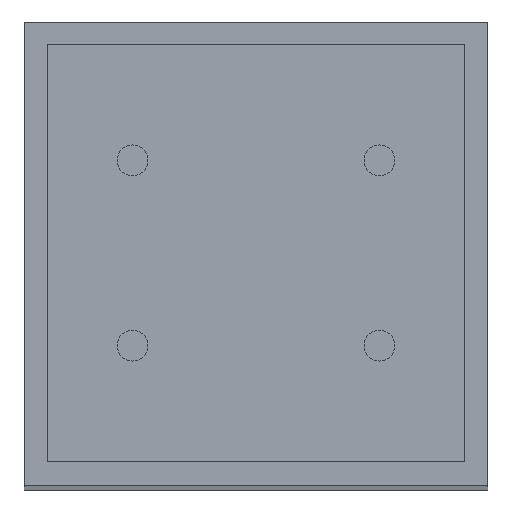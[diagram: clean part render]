
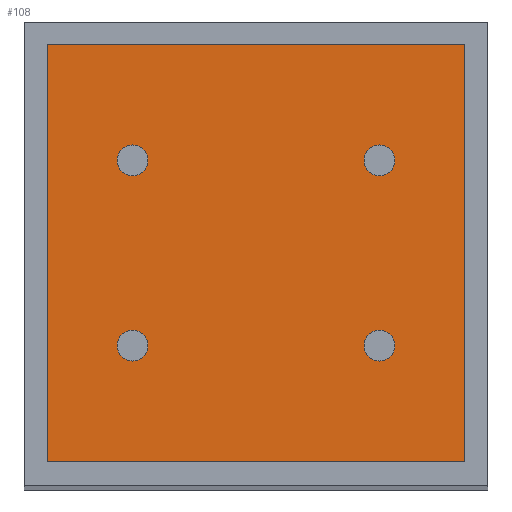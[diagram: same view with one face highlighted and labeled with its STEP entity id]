
A CAD part, top view. The second image highlights one B-rep face of the part: STEP entity #108.
In plain terms, the highlighted planar face has unit normal (0, 0, 1).
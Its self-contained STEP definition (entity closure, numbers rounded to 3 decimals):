
#108 = ADVANCED_FACE( '', ( #183, #184, #185, #186, #187 ), #188, .T. );
#183 = FACE_BOUND( '', #273, .T. );
#184 = FACE_BOUND( '', #274, .T. );
#185 = FACE_BOUND( '', #275, .T. );
#186 = FACE_BOUND( '', #276, .T. );
#187 = FACE_OUTER_BOUND( '', #277, .T. );
#188 = PLANE( '', #278 );
#273 = EDGE_LOOP( '', ( #515, #516 ) );
#274 = EDGE_LOOP( '', ( #517, #518 ) );
#275 = EDGE_LOOP( '', ( #519, #520 ) );
#276 = EDGE_LOOP( '', ( #521, #522 ) );
#277 = EDGE_LOOP( '', ( #523, #524, #525, #526 ) );
#278 = AXIS2_PLACEMENT_3D( '', #527, #528, #529 );
#515 = ORIENTED_EDGE( '', *, *, #615, .T. );
#516 = ORIENTED_EDGE( '', *, *, #616, .T. );
#517 = ORIENTED_EDGE( '', *, *, #611, .T. );
#518 = ORIENTED_EDGE( '', *, *, #618, .T. );
#519 = ORIENTED_EDGE( '', *, *, #607, .T. );
#520 = ORIENTED_EDGE( '', *, *, #620, .T. );
#521 = ORIENTED_EDGE( '', *, *, #603, .T. );
#522 = ORIENTED_EDGE( '', *, *, #622, .T. );
#523 = ORIENTED_EDGE( '', *, *, #647, .T. );
#524 = ORIENTED_EDGE( '', *, *, #641, .T. );
#525 = ORIENTED_EDGE( '', *, *, #644, .T. );
#526 = ORIENTED_EDGE( '', *, *, #646, .T. );
#527 = CARTESIAN_POINT( '', ( 0., 0., 610. ) );
#528 = DIRECTION( '', ( 0., 0., 1. ) );
#529 = DIRECTION( '', ( 1., 0., 0. ) );
#603 = EDGE_CURVE( '', #701, #705, #707, .T. );
#607 = EDGE_CURVE( '', #709, #713, #715, .T. );
#611 = EDGE_CURVE( '', #717, #721, #723, .T. );
#615 = EDGE_CURVE( '', #725, #729, #731, .T. );
#616 = EDGE_CURVE( '', #729, #725, #732, .T. );
#618 = EDGE_CURVE( '', #721, #717, #734, .T. );
#620 = EDGE_CURVE( '', #713, #709, #736, .T. );
#622 = EDGE_CURVE( '', #705, #701, #738, .T. );
#641 = EDGE_CURVE( '', #766, #764, #767, .T. );
#644 = EDGE_CURVE( '', #764, #769, #771, .T. );
#646 = EDGE_CURVE( '', #769, #772, #774, .T. );
#647 = EDGE_CURVE( '', #772, #766, #775, .T. );
#701 = VERTEX_POINT( '', #849 );
#705 = VERTEX_POINT( '', #854 );
#707 = CIRCLE( '', #857, 3. );
#709 = VERTEX_POINT( '', #859 );
#713 = VERTEX_POINT( '', #864 );
#715 = CIRCLE( '', #867, 3. );
#717 = VERTEX_POINT( '', #869 );
#721 = VERTEX_POINT( '', #874 );
#723 = CIRCLE( '', #877, 3. );
#725 = VERTEX_POINT( '', #879 );
#729 = VERTEX_POINT( '', #884 );
#731 = CIRCLE( '', #887, 3. );
#732 = CIRCLE( '', #888, 3. );
#734 = CIRCLE( '', #890, 3. );
#736 = CIRCLE( '', #892, 3. );
#738 = CIRCLE( '', #894, 3. );
#764 = VERTEX_POINT( '', #928 );
#766 = VERTEX_POINT( '', #931 );
#767 = LINE( '', #932, #933 );
#769 = VERTEX_POINT( '', #936 );
#771 = LINE( '', #939, #940 );
#772 = VERTEX_POINT( '', #941 );
#774 = LINE( '', #944, #945 );
#775 = LINE( '', #946, #947 );
#849 = CARTESIAN_POINT( '', ( 3., 6., 610. ) );
#854 = CARTESIAN_POINT( '', ( -3., 6., 610. ) );
#857 = AXIS2_PLACEMENT_3D( '', #1037, #1038, #1039 );
#859 = CARTESIAN_POINT( '', ( 3., 42., 610. ) );
#864 = CARTESIAN_POINT( '', ( -3., 42., 610. ) );
#867 = AXIS2_PLACEMENT_3D( '', #1045, #1046, #1047 );
#869 = CARTESIAN_POINT( '', ( 51., 6., 610. ) );
#874 = CARTESIAN_POINT( '', ( 45., 6., 610. ) );
#877 = AXIS2_PLACEMENT_3D( '', #1053, #1054, #1055 );
#879 = CARTESIAN_POINT( '', ( 51., 42., 610. ) );
#884 = CARTESIAN_POINT( '', ( 45., 42., 610. ) );
#887 = AXIS2_PLACEMENT_3D( '', #1061, #1062, #1063 );
#888 = AXIS2_PLACEMENT_3D( '', #1064, #1065, #1066 );
#890 = AXIS2_PLACEMENT_3D( '', #1070, #1071, #1072 );
#892 = AXIS2_PLACEMENT_3D( '', #1076, #1077, #1078 );
#894 = AXIS2_PLACEMENT_3D( '', #1082, #1083, #1084 );
#928 = CARTESIAN_POINT( '', ( 64.5, -16.5, 610. ) );
#931 = CARTESIAN_POINT( '', ( -16.5, -16.5, 610. ) );
#932 = CARTESIAN_POINT( '', ( -16.5, -16.5, 610. ) );
#933 = VECTOR( '', #1121, 1. );
#936 = CARTESIAN_POINT( '', ( 64.5, 64.5, 610. ) );
#939 = CARTESIAN_POINT( '', ( 64.5, -16.5, 610. ) );
#940 = VECTOR( '', #1124, 1. );
#941 = CARTESIAN_POINT( '', ( -16.5, 64.5, 610. ) );
#944 = CARTESIAN_POINT( '', ( 64.5, 64.5, 610. ) );
#945 = VECTOR( '', #1126, 1. );
#946 = CARTESIAN_POINT( '', ( -16.5, 64.5, 610. ) );
#947 = VECTOR( '', #1127, 1. );
#1037 = CARTESIAN_POINT( '', ( 0., 6., 610. ) );
#1038 = DIRECTION( '', ( 0., 0., -1. ) );
#1039 = DIRECTION( '', ( 1., 0., 0. ) );
#1045 = CARTESIAN_POINT( '', ( 0., 42., 610. ) );
#1046 = DIRECTION( '', ( 0., 0., -1. ) );
#1047 = DIRECTION( '', ( 1., 0., 0. ) );
#1053 = CARTESIAN_POINT( '', ( 48., 6., 610. ) );
#1054 = DIRECTION( '', ( 0., 0., -1. ) );
#1055 = DIRECTION( '', ( 1., 0., 0. ) );
#1061 = CARTESIAN_POINT( '', ( 48., 42., 610. ) );
#1062 = DIRECTION( '', ( 0., 0., -1. ) );
#1063 = DIRECTION( '', ( 1., 0., 0. ) );
#1064 = CARTESIAN_POINT( '', ( 48., 42., 610. ) );
#1065 = DIRECTION( '', ( 0., 0., -1. ) );
#1066 = DIRECTION( '', ( 1., 0., 0. ) );
#1070 = CARTESIAN_POINT( '', ( 48., 6., 610. ) );
#1071 = DIRECTION( '', ( 0., 0., -1. ) );
#1072 = DIRECTION( '', ( 1., 0., 0. ) );
#1076 = CARTESIAN_POINT( '', ( 0., 42., 610. ) );
#1077 = DIRECTION( '', ( 0., 0., -1. ) );
#1078 = DIRECTION( '', ( 1., 0., 0. ) );
#1082 = CARTESIAN_POINT( '', ( 0., 6., 610. ) );
#1083 = DIRECTION( '', ( 0., 0., -1. ) );
#1084 = DIRECTION( '', ( 1., 0., 0. ) );
#1121 = DIRECTION( '', ( 1., 0., 0. ) );
#1124 = DIRECTION( '', ( 0., 1., 0. ) );
#1126 = DIRECTION( '', ( -1., 0., 0. ) );
#1127 = DIRECTION( '', ( 0., -1., 0. ) );
